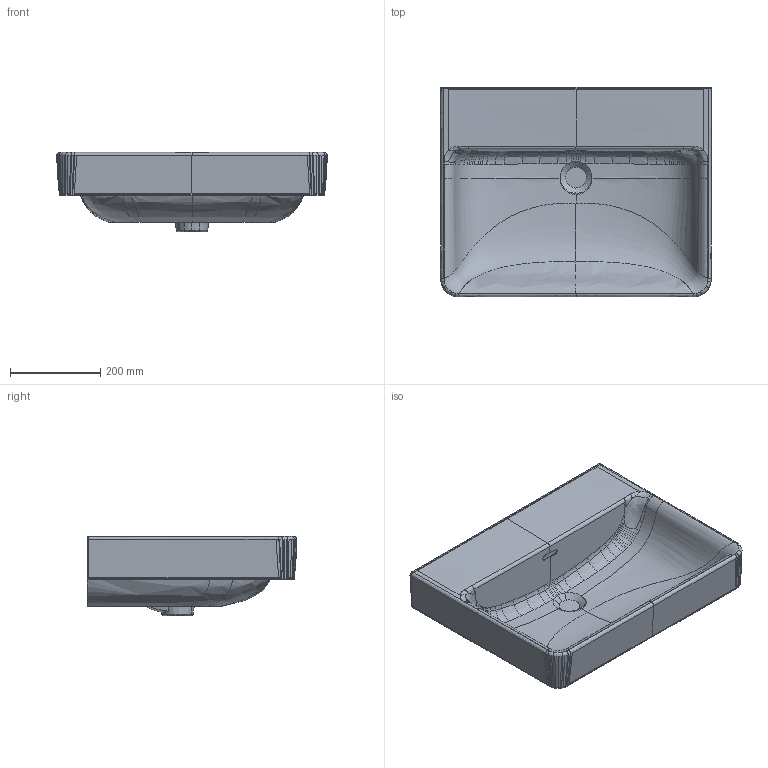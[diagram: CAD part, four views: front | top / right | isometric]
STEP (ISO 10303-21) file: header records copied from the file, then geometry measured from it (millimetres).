
FILE_DESCRIPTION(('CATIA V5 STEP'),'2;1');
FILE_NAME('G:\Laufen Similor\TPM-K\TPE\JStöckli\BIM\Laufen pro\10963\HY10963BIM.stp','2017-01-23T13:50:04+00:00',('none'),('none'),'CATIA Version 5 Release 19 SP 9 (IN-10)','CATIA V5 STEP AP203','none');
FILE_SCHEMA(('CONFIG_CONTROL_DESIGN'));
Products named in the file (1): HY10963BIM
Bounding box: 599.94 x 464.97 x 176 mm (x, y, z)
Volume: 13576570.6 mm3; surface area: 1023194.5 mm2
Topology: 1 solids, 1 shells, 454 faces, 1512 edges, 1065 vertices
Faces by surface type: bspline 392, plane 27, extrusion 16, cone 12, torus 4, cylinder 3
Entity records: 70892 total; most frequent: CARTESIAN_POINT 61719, ORIENTED_EDGE 3012, EDGE_CURVE 1506, B_SPLINE_CURVE_WITH_KNOTS 1384, VERTEX_POINT 1056, EDGE_LOOP 456, ADVANCED_FACE 454, FACE_OUTER_BOUND 454
